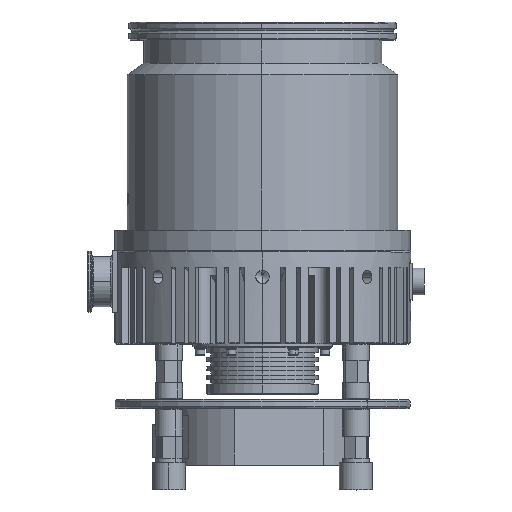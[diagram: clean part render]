
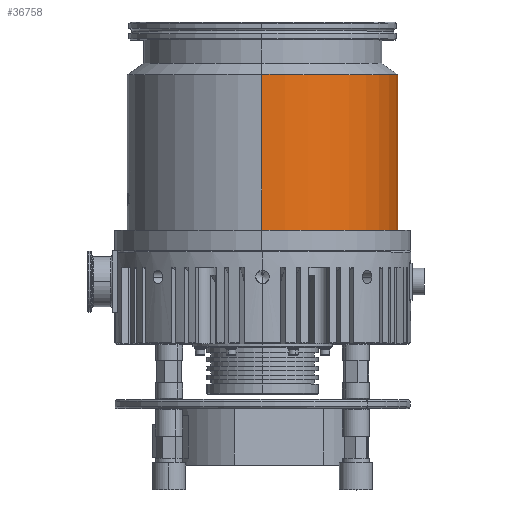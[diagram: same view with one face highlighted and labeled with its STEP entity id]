
A CAD part, top view. The second image highlights one B-rep face of the part: STEP entity #36758.
In plain terms, the highlighted cylindrical face has radius 121.5 mm (diameter 243 mm), a partial arc.
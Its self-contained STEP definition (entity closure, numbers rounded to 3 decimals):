
#537 = EDGE_CURVE ( 'NONE', #132456, #17780, #178896, .T. ) ;
#10207 = DIRECTION ( 'NONE',  ( 0., -1., 0. ) ) ;
#17780 = VERTEX_POINT ( 'NONE', #38702 ) ;
#24445 = DIRECTION ( 'NONE',  ( 0., -1., 0. ) ) ;
#30367 = ORIENTED_EDGE ( 'NONE', *, *, #178350, .T. ) ;
#36758 = ADVANCED_FACE ( 'NONE', ( #161300 ), #160146, .T. ) ;
#38702 = CARTESIAN_POINT ( 'NONE',  ( 0., -133.983, 121.5 ) ) ;
#41066 = ORIENTED_EDGE ( 'NONE', *, *, #537, .T. ) ;
#68138 = AXIS2_PLACEMENT_3D ( 'NONE', #118341, #118095, #117962 ) ;
#70366 = DIRECTION ( 'NONE',  ( 0., -1., 0. ) ) ;
#72976 = EDGE_CURVE ( 'NONE', #92460, #17780, #115821, .T. ) ;
#92460 = VERTEX_POINT ( 'NONE', #133116 ) ;
#92909 = VERTEX_POINT ( 'NONE', #144255 ) ;
#99622 = CARTESIAN_POINT ( 'NONE',  ( 0., 5.867, 0. ) ) ;
#110020 = EDGE_LOOP ( 'NONE', ( #179279, #30367, #159869, #41066 ) ) ;
#113087 = CIRCLE ( 'NONE', #172088, 121.5 ) ;
#113739 = CARTESIAN_POINT ( 'NONE',  ( 0., 0., -121.5 ) ) ;
#114582 = DIRECTION ( 'NONE',  ( 0., 0., -1. ) ) ;
#115429 = VECTOR ( 'NONE', #70366, 1000. ) ;
#115821 = LINE ( 'NONE', #158363, #115429 ) ;
#116442 = EDGE_CURVE ( 'NONE', #92909, #132456, #149956, .T. ) ;
#117962 = DIRECTION ( 'NONE',  ( 0., 0., -1. ) ) ;
#118095 = DIRECTION ( 'NONE',  ( 0., 1., 0. ) ) ;
#118341 = CARTESIAN_POINT ( 'NONE',  ( 0., -133.983, 0. ) ) ;
#122966 = AXIS2_PLACEMENT_3D ( 'NONE', #162875, #163499, #171015 ) ;
#132456 = VERTEX_POINT ( 'NONE', #142481 ) ;
#133116 = CARTESIAN_POINT ( 'NONE',  ( 0., 5.867, 121.5 ) ) ;
#142481 = CARTESIAN_POINT ( 'NONE',  ( 0., -133.983, -121.5 ) ) ;
#144255 = CARTESIAN_POINT ( 'NONE',  ( 0., 5.867, -121.5 ) ) ;
#145492 = VECTOR ( 'NONE', #24445, 1000. ) ;
#149956 = LINE ( 'NONE', #113739, #145492 ) ;
#158363 = CARTESIAN_POINT ( 'NONE',  ( 0., 0., 121.5 ) ) ;
#159869 = ORIENTED_EDGE ( 'NONE', *, *, #116442, .T. ) ;
#160146 = CYLINDRICAL_SURFACE ( 'NONE', #122966, 121.5 ) ;
#161300 = FACE_OUTER_BOUND ( 'NONE', #110020, .T. ) ;
#162875 = CARTESIAN_POINT ( 'NONE',  ( 0., 0., 0. ) ) ;
#163499 = DIRECTION ( 'NONE',  ( 0., -1., 0. ) ) ;
#171015 = DIRECTION ( 'NONE',  ( 0., 0., -1. ) ) ;
#172088 = AXIS2_PLACEMENT_3D ( 'NONE', #99622, #10207, #114582 ) ;
#178350 = EDGE_CURVE ( 'NONE', #92460, #92909, #113087, .T. ) ;
#178896 = CIRCLE ( 'NONE', #68138, 121.5 ) ;
#179279 = ORIENTED_EDGE ( 'NONE', *, *, #72976, .F. ) ;
